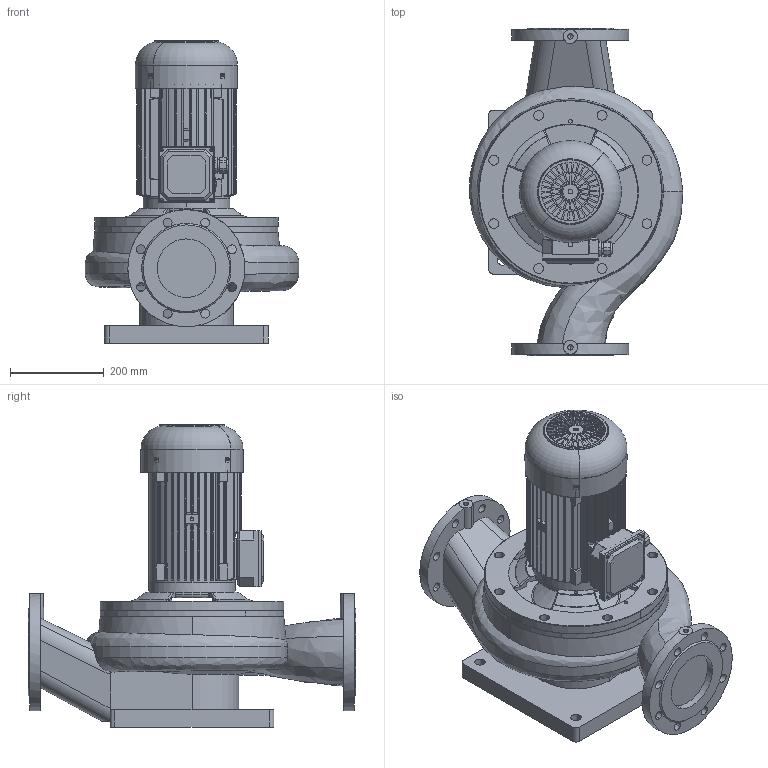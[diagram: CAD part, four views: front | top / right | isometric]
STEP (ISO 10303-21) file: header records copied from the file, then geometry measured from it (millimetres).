
FILE_DESCRIPTION(('STEP AP214'),'1');
FILE_NAME('export.stp','2018-05-28T11:55:50',(' '),(' '),'Spatial InterOp 3D',' ',' ');
FILE_SCHEMA(('AUTOMOTIVE_DESIGN { 1 0 10303 214 1 1 1 1 }'));
Length unit declared in the file: millimetre
Products named in the file (16): W_AL11284400KP112; V_TLL100SAL1202; V_PPALP1128; PP_ALP1128_kesken; Tukijalka_ALP1128; 440017; 440016; V_MKP112_2_F31; 480018; 480017; 440018; 440021; 480022; 480020; M25_Blind_Plug; M25_tiivisteholkk
Assembly tree (15 placements, depth 4):
  W_AL11284400KP112
    V_TLL100SAL1202
    V_PPALP1128
      PP_ALP1128_kesken
      Tukijalka_ALP1128
    V_MKP112_2_F31
      440017
        440016
      480018
        480017
      440018
      440021
      480022
      480020
      M25_Blind_Plug
      M25_tiivisteholkk
Bounding box: 456.09 x 700 x 645.4 mm (x, y, z)
Volume: 34124974.4 mm3; surface area: 2709662.7 mm2
Topology: 11 solids, 11 shells, 1580 faces, 4456 edges, 2925 vertices
Faces by surface type: cylinder 778, plane 521, cone 134, torus 117, bspline 30
Entity records: 63766 total; most frequent: CARTESIAN_POINT 19733, ORIENTED_EDGE 8896, DIRECTION 8592, EDGE_CURVE 4448, AXIS2_PLACEMENT_3D 3303, VERTEX_POINT 2925, LINE 1986, VECTOR 1986
